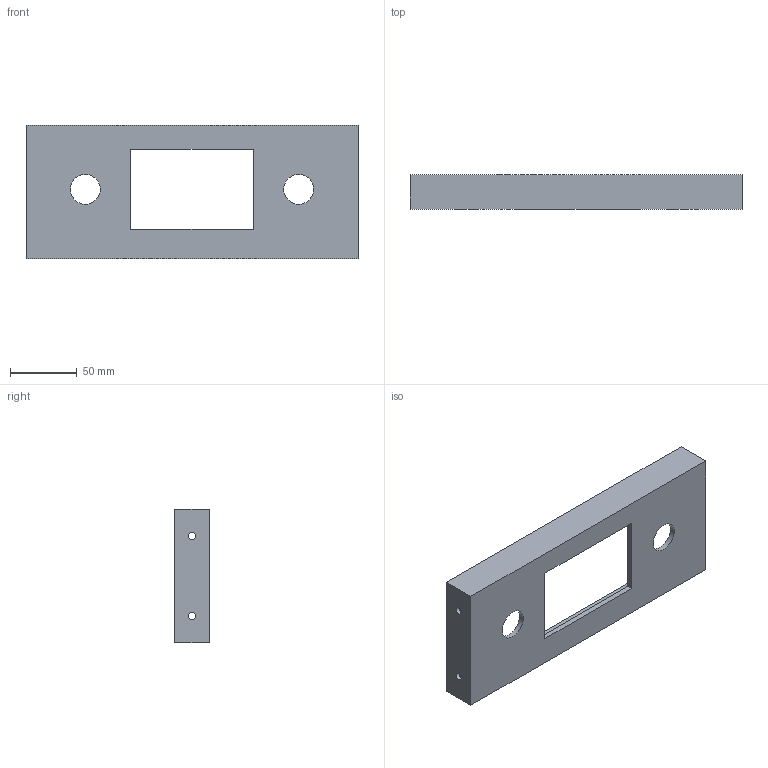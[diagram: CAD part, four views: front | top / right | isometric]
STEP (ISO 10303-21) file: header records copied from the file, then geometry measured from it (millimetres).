
FILE_DESCRIPTION(('Open CASCADE Model'),'2;1');
FILE_NAME('Open CASCADE Shape Model','2026-10-06T19:56:10',('Author'),( 'Open CASCADE'),'Open CASCADE STEP processor 7.9','Open CASCADE 7.9' ,'Unknown');
FILE_SCHEMA(('AUTOMOTIVE_DESIGN { 1 0 10303 214 1 1 1 1 }'));
Length unit declared in the file: millimetre
Products named in the file (1): Open CASCADE STEP translator 7.9 28
Bounding box: 249 x 26 x 100 mm (x, y, z)
Volume: 119358.2 mm3; surface area: 71955.9 mm2
Topology: 1 solids, 1 shells, 21 faces, 54 edges, 36 vertices
Faces by surface type: plane 15, cylinder 6
Full cylindrical faces by diameter (mm): 5.5 x4, 22.4 x2
Entity records: 1380 total; most frequent: CARTESIAN_POINT 292, DIRECTION 186, LINE 114, VECTOR 114, ORIENTED_EDGE 108, PCURVE 108, DEFINITIONAL_REPRESENTATION 108, EDGE_CURVE 54
